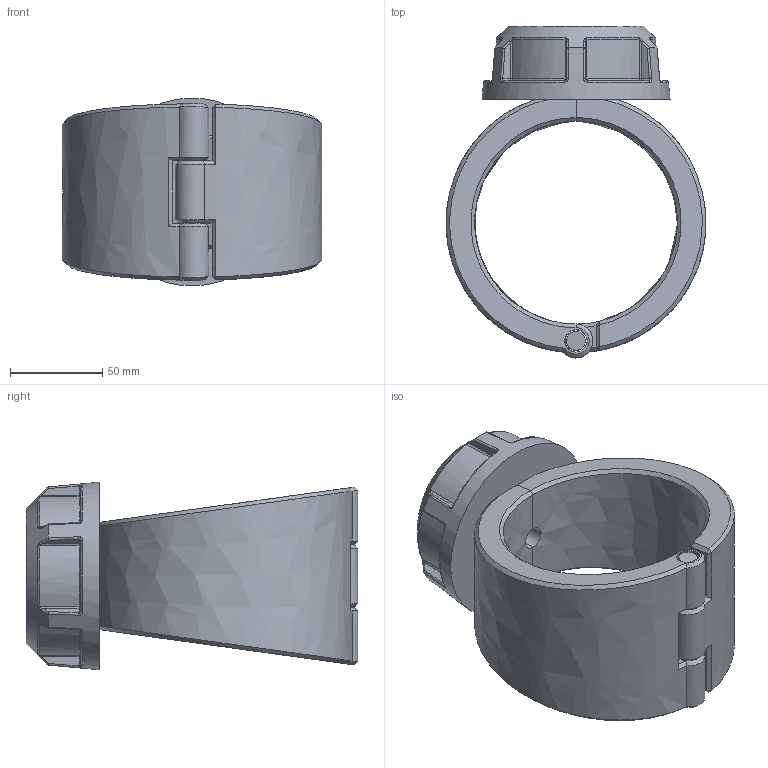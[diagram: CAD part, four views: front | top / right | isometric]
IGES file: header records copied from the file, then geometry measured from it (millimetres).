
Global section: file name: 163000110007; native system: Autodesk Inventor 2019; preprocessor: unknown; author: comp2; date: 20220203.114744; units: millimetre
Bounding box: 141 x 180 x 101.96 mm (x, y, z)
Volume: 693697.9 mm3; surface area: 110549.8 mm2
Topology: 4 solids, 4 shells, 203 faces, 486 edges, 293 vertices
Faces by surface type: bspline 203
